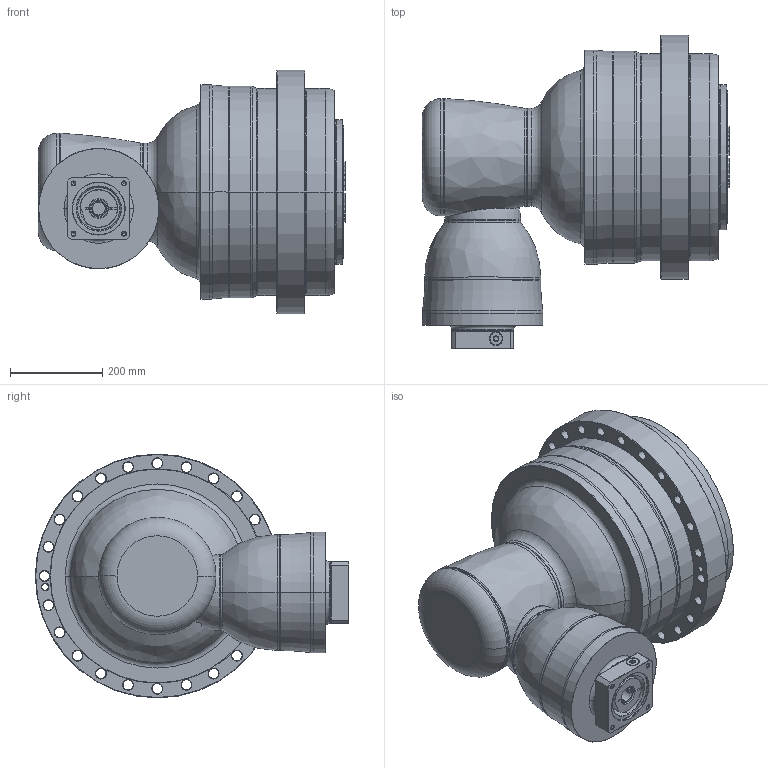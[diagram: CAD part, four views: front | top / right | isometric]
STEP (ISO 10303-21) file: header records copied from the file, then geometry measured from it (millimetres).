
FILE_DESCRIPTION((''),'2;1');
FILE_NAME('APCK450_4ST_35-P0409800201_ASM','2018-05-17T',('d01226'),(''),'PRO/ENGINEER BY PARAMETRIC TECHNOLOGY CORPORATION, 2008410','PRO/ENGINEER BY PARAMETRIC TECHNOLOGY CORPORATION, 2008410','');
FILE_SCHEMA(('CONFIG_CONTROL_DESIGN'));
Length unit declared in the file: millimetre
Products named in the file (13): P1008700002; P1315700001; P1007701001; P1317701101; P0409800201; P0503800012; P0912601001; 21711422019; P1821200001; P0276201003; P03572B0103; P1222200001; APCK450_4ST_35-P0409800201_ASM
Assembly tree (12 placements, depth 2):
  APCK450_4ST_35-P0409800201_ASM
    P1008700002
    P1315700001
    P1007701001
    P1317701101
    P0409800201
    P0503800012
    P0912601001
    21711422019
    P1821200001
    P0276201003
    P03572B0103
    P1222200001
Bounding box: 667.6 x 681 x 530 mm (x, y, z)
Volume: 89560994.1 mm3; surface area: 3076347.6 mm2
Topology: 13 solids, 25 shells, 848 faces, 2043 edges, 1253 vertices
Faces by surface type: cone 270, cylinder 230, plane 164, torus 156, bspline 26, sphere 2
Entity records: 34021 total; most frequent: CARTESIAN_POINT 13764, DIRECTION 4526, ORIENTED_EDGE 4008, EDGE_CURVE 2029, AXIS2_PLACEMENT_3D 2011, VERTEX_POINT 1253, CIRCLE 1152, EDGE_LOOP 962
